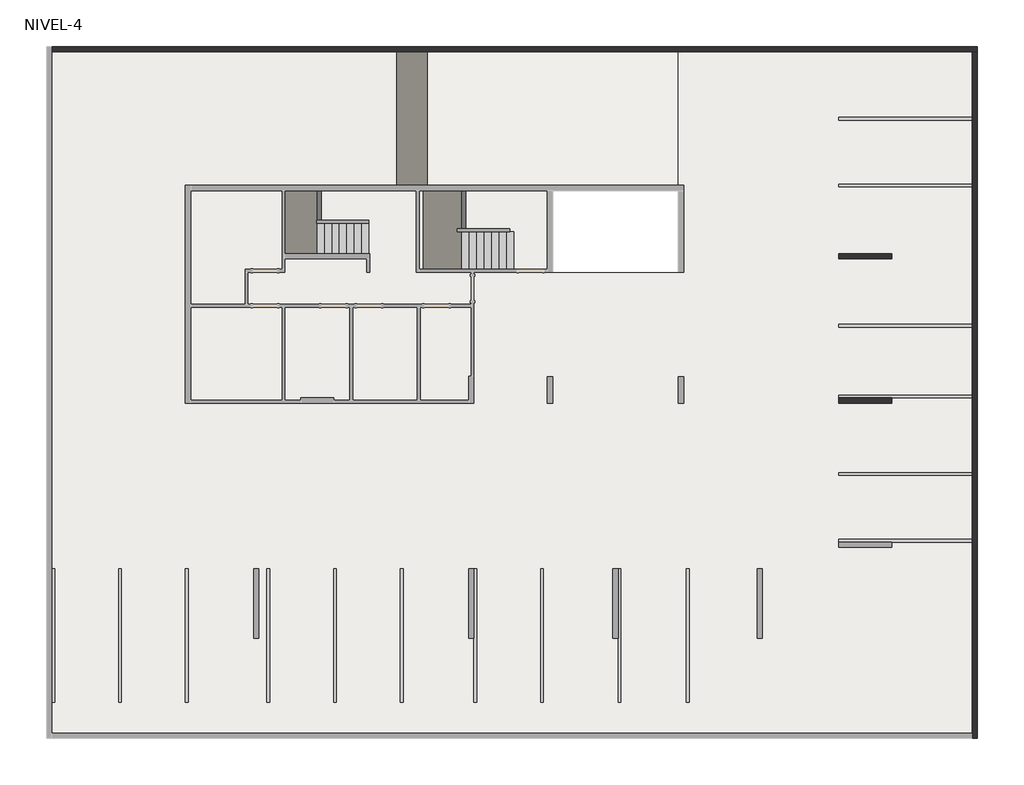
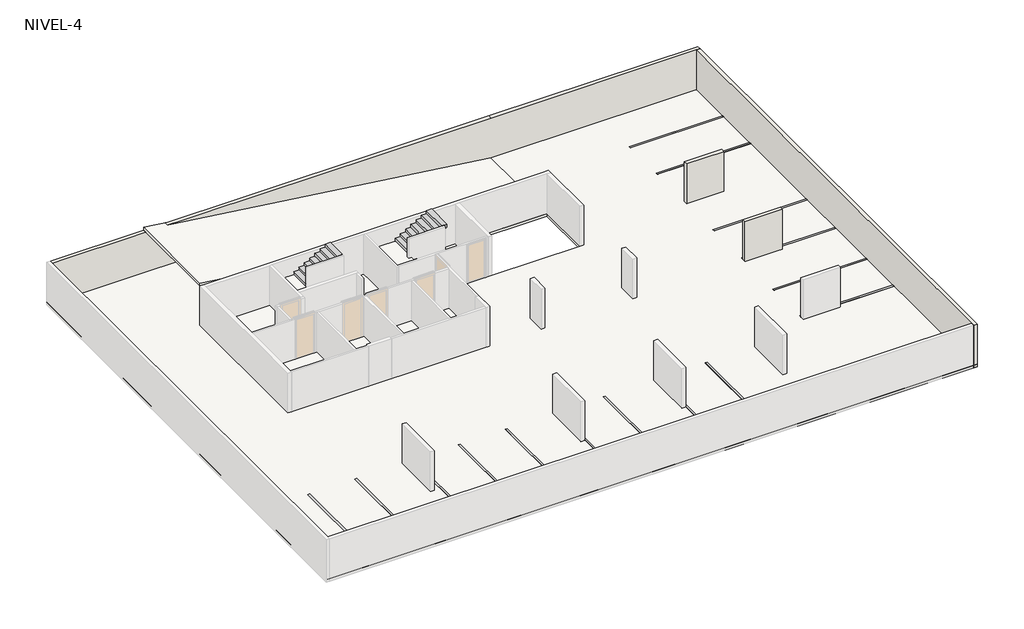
# One storey, part 2 of 2: 16 proxies, 4 slabs, 4 stair flights, 4 walls.
"""IFC4 building model written with IfcOpenShell, lengths in millimetres."""

from ifc_helpers import new_model, si_unit, frame, origin, place, context, project, spatial, polyline, outline, extrude, faceted_brep, transform, mapped, element, save
from components import m_plaza_de_aparcamiento_500x_240_cm_90_grados_ee1d180e, m_plaza_de_aparcamiento_500x_240_cm_90_grados_d35e9f12

model = new_model("IFC4")

# Units and contexts
model_context = context("Model", 3, world=origin())
ifc_project = project(units=[si_unit("LENGTHUNIT", "METRE", prefix="MILLI")], contexts=[model_context])

# Site, building, storey
site = spatial("IfcSite", under=ifc_project)
building = spatial("IfcBuilding", under=site)
storey = spatial("IfcBuildingStorey", under=building, Name="NIVEL-4", Elevation=-11700.0)

# Proxies
placement = place(None, origin())
m_plaza_de_aparcamiento_500x_240_cm_90_grados_shape = m_plaza_de_aparcamiento_500x_240_cm_90_grados_ee1d180e(model_context)
element("IfcBuildingElementProxy", 1, Name="M_Plaza de aparcamiento : 500x 240 cm - 90 grados", ObjectType="M_Plaza de aparcamiento : 500x 240 cm - 90 grados", at=placement, inside=storey, context=model_context, shape_type="MappedRepresentation", body=[
    mapped(m_plaza_de_aparcamiento_500x_240_cm_90_grados_shape, transform((-12432.7934748, -1166.0860759, -11700.0), x_axis=(1.0, 0.0, 0.0), y_axis=(0.0, 1.0, 0.0), z_axis=(0.0, 0.0, 1.0))),
])
element("IfcBuildingElementProxy", 2, Name="M_Plaza de aparcamiento : 500x 240 cm - 90 grados", ObjectType="M_Plaza de aparcamiento : 500x 240 cm - 90 grados", at=placement, inside=storey, context=model_context, shape_type="MappedRepresentation", body=[
    mapped(m_plaza_de_aparcamiento_500x_240_cm_90_grados_shape, transform((-15183.5934748, -1166.0860759, -11700.0), x_axis=(1.0, 0.0, 0.0), y_axis=(0.0, 1.0, 0.0), z_axis=(0.0, 0.0, 1.0))),
])
element("IfcBuildingElementProxy", 3, Name="M_Plaza de aparcamiento : 500x 240 cm - 90 grados", ObjectType="M_Plaza de aparcamiento : 500x 240 cm - 90 grados", at=placement, inside=storey, context=model_context, shape_type="MappedRepresentation", body=[
    mapped(m_plaza_de_aparcamiento_500x_240_cm_90_grados_shape, transform((-17683.5934748, -1166.0860759, -11700.0), x_axis=(1.0, 0.0, 0.0), y_axis=(0.0, 1.0, 0.0), z_axis=(0.0, 0.0, 1.0))),
])
element("IfcBuildingElementProxy", 4, Name="M_Plaza de aparcamiento : 500x 240 cm - 90 grados", ObjectType="M_Plaza de aparcamiento : 500x 240 cm - 90 grados", at=placement, inside=storey, context=model_context, shape_type="MappedRepresentation", body=[
    mapped(m_plaza_de_aparcamiento_500x_240_cm_90_grados_shape, transform((-20183.5934748, -1166.0860759, -11700.0), x_axis=(1.0, 0.0, 0.0), y_axis=(0.0, 1.0, 0.0), z_axis=(0.0, 0.0, 1.0))),
])
element("IfcBuildingElementProxy", 5, Name="M_Plaza de aparcamiento : 500x 240 cm - 90 grados", ObjectType="M_Plaza de aparcamiento : 500x 240 cm - 90 grados", at=placement, inside=storey, context=model_context, shape_type="MappedRepresentation", body=[
    mapped(m_plaza_de_aparcamiento_500x_240_cm_90_grados_shape, transform((-23233.5934748, -1166.0860759, -11700.0), x_axis=(1.0, 0.0, 0.0), y_axis=(0.0, 1.0, 0.0), z_axis=(0.0, 0.0, 1.0))),
])
element("IfcBuildingElementProxy", 6, Name="M_Plaza de aparcamiento : 500x 240 cm - 90 grados", ObjectType="M_Plaza de aparcamiento : 500x 240 cm - 90 grados", at=placement, inside=storey, context=model_context, shape_type="MappedRepresentation", body=[
    mapped(m_plaza_de_aparcamiento_500x_240_cm_90_grados_shape, transform((-25733.5934748, -1166.0860759, -11700.0), x_axis=(1.0, 0.0, 0.0), y_axis=(0.0, 1.0, 0.0), z_axis=(0.0, 0.0, 1.0))),
])
element("IfcBuildingElementProxy", 7, Name="M_Plaza de aparcamiento : 500x 240 cm - 90 grados", ObjectType="M_Plaza de aparcamiento : 500x 240 cm - 90 grados", at=placement, inside=storey, context=model_context, shape_type="MappedRepresentation", body=[
    mapped(m_plaza_de_aparcamiento_500x_240_cm_90_grados_shape, transform((-28233.5934748, -1166.0860759, -11700.0), x_axis=(1.0, 0.0, 0.0), y_axis=(0.0, 1.0, 0.0), z_axis=(0.0, 0.0, 1.0))),
])
element("IfcBuildingElementProxy", 8, Name="M_Plaza de aparcamiento : 500x 240 cm - 90 grados", ObjectType="M_Plaza de aparcamiento : 500x 240 cm - 90 grados", at=placement, inside=storey, context=model_context, shape_type="MappedRepresentation", body=[
    mapped(m_plaza_de_aparcamiento_500x_240_cm_90_grados_shape, transform((-9933.587274, -1166.0860759, -11700.0), x_axis=(1.0, 0.0, 0.0), y_axis=(0.0, 1.0, 0.0), z_axis=(0.0, 0.0, 1.0))),
])
element("IfcBuildingElementProxy", 9, Name="M_Plaza de aparcamiento : 500x 240 cm - 90 grados", ObjectType="M_Plaza de aparcamiento : 500x 240 cm - 90 grados", at=placement, inside=storey, context=model_context, shape_type="MappedRepresentation", body=[
    mapped(m_plaza_de_aparcamiento_500x_240_cm_90_grados_shape, transform((-7032.7934748, -1166.0860759, -11700.0), x_axis=(1.0, 0.0, 0.0), y_axis=(0.0, 1.0, 0.0), z_axis=(0.0, 0.0, 1.0))),
])
element("IfcBuildingElementProxy", 10, Name="M_Plaza de aparcamiento : 500x 240 cm - 90 grados", ObjectType="M_Plaza de aparcamiento : 500x 240 cm - 90 grados", at=placement, inside=storey, context=model_context, shape_type="MappedRepresentation", body=[
    mapped(m_plaza_de_aparcamiento_500x_240_cm_90_grados_shape, transform((-4481.9934748, -1166.0860759, -11700.0), x_axis=(1.0, 0.0, 0.0), y_axis=(0.0, 1.0, 0.0), z_axis=(0.0, 0.0, 1.0))),
])
m_plaza_de_aparcamiento_500x_240_cm_90_grados_2_shape = m_plaza_de_aparcamiento_500x_240_cm_90_grados_d35e9f12(model_context)
element("IfcBuildingElementProxy", 11, Name="M_Plaza de aparcamiento : 500x 240 cm - 90 grados", ObjectType="M_Plaza de aparcamiento : 500x 240 cm - 90 grados", at=placement, inside=storey, context=model_context, shape_type="MappedRepresentation", body=[
    mapped(m_plaza_de_aparcamiento_500x_240_cm_90_grados_2_shape, transform((6166.4065252, 13184.7139241, -11700.0), x_axis=(0.0, 1.0, 0.0), y_axis=(-1.0, 0.0, 0.0), z_axis=(0.0, 0.0, 1.0))),
])
element("IfcBuildingElementProxy", 12, Name="M_Plaza de aparcamiento : 500x 240 cm - 90 grados", ObjectType="M_Plaza de aparcamiento : 500x 240 cm - 90 grados", at=placement, inside=storey, context=model_context, shape_type="MappedRepresentation", body=[
    mapped(m_plaza_de_aparcamiento_500x_240_cm_90_grados_2_shape, transform((6166.4065252, 15684.7139241, -11700.0), x_axis=(0.0, 1.0, 0.0), y_axis=(-1.0, 0.0, 0.0), z_axis=(0.0, 0.0, 1.0))),
])
element("IfcBuildingElementProxy", 13, Name="M_Plaza de aparcamiento : 500x 240 cm - 90 grados", ObjectType="M_Plaza de aparcamiento : 500x 240 cm - 90 grados", at=placement, inside=storey, context=model_context, shape_type="MappedRepresentation", body=[
    mapped(m_plaza_de_aparcamiento_500x_240_cm_90_grados_2_shape, transform((6166.4065252, 7933.9139241, -11700.0), x_axis=(0.0, 1.0, 0.0), y_axis=(-1.0, 0.0, 0.0), z_axis=(0.0, 0.0, 1.0))),
])
element("IfcBuildingElementProxy", 14, Name="M_Plaza de aparcamiento : 500x 240 cm - 90 grados", ObjectType="M_Plaza de aparcamiento : 500x 240 cm - 90 grados", at=placement, inside=storey, context=model_context, shape_type="MappedRepresentation", body=[
    mapped(m_plaza_de_aparcamiento_500x_240_cm_90_grados_2_shape, transform((6166.4065252, 5284.7139241, -11700.0), x_axis=(0.0, 1.0, 0.0), y_axis=(-1.0, 0.0, 0.0), z_axis=(0.0, 0.0, 1.0))),
])
element("IfcBuildingElementProxy", 15, Name="M_Plaza de aparcamiento : 500x 240 cm - 90 grados", ObjectType="M_Plaza de aparcamiento : 500x 240 cm - 90 grados", at=placement, inside=storey, context=model_context, shape_type="MappedRepresentation", body=[
    mapped(m_plaza_de_aparcamiento_500x_240_cm_90_grados_2_shape, transform((6166.4065252, 2384.7139241, -11700.0), x_axis=(0.0, 1.0, 0.0), y_axis=(-1.0, 0.0, 0.0), z_axis=(0.0, 0.0, 1.0))),
])
element("IfcBuildingElementProxy", 16, Name="M_Plaza de aparcamiento : 500x 240 cm - 90 grados", ObjectType="M_Plaza de aparcamiento : 500x 240 cm - 90 grados", at=placement, inside=storey, context=model_context, shape_type="MappedRepresentation", body=[
    mapped(m_plaza_de_aparcamiento_500x_240_cm_90_grados_2_shape, transform((6166.4065252, -115.2860759, -11700.0), x_axis=(0.0, 1.0, 0.0), y_axis=(-1.0, 0.0, 0.0), z_axis=(0.0, 0.0, 1.0))),
])

# Slabs
element("IfcSlab", 17, ObjectType="150 mm Thickness", at=placement, inside=storey, context=model_context, shape_type="Brep", body=[
    faceted_brep([(-18375.8934748, 10633.9139241, -10429.3333333), (-18375.8934748, 11766.6139241, -10429.3333333), (-18375.8934748, 11876.6139241, -10429.3333333), (-18375.8934748, 12984.7139241, -10429.3333333), (-19558.5934748, 12984.7139241, -10429.3333333), (-19558.5934748, 10633.9139241, -10429.3333333), (-18696.0159045, 10633.9139241, -10429.3333333), (-18375.8934748, 10633.9139241, -10763.7848285), (-18375.8934748, 10633.9139241, -10590.6666667), (-19558.5934748, 10633.9139241, -10579.3333333), (-18696.0159045, 10633.9139241, -10579.3333333), (-18375.8934748, 11766.6139241, -10579.3333333), (-18375.8934748, 11876.6139241, -10579.3333333), (-18375.8934748, 12984.7139241, -10579.3333333), (-19558.5934748, 12984.7139241, -10579.3333333), (-18696.0159045, 11766.6139241, -10579.3333333), (-18375.8934748, 11766.6139241, -10763.7848285), (-18375.8934748, 11766.6139241, -10590.6666667)], [[[0, 1, 2, 3, 4, 5, 6]], [[7, 8, 0, 6, 5, 9, 10]], [[2, 1, 11, 12]], [[3, 2, 12, 13]], [[4, 3, 13, 14]], [[10, 15, 16, 7]], [[15, 11, 17, 16]], [[15, 10, 9, 14, 13, 12, 11]], [[1, 0, 8, 7, 16, 17, 11]], [[5, 4, 14, 9]]]),
])
element("IfcSlab", 18, ObjectType="150 mm Thickness", at=placement, inside=storey, context=model_context, shape_type="Brep", body=[
    faceted_brep([(-12958.9934748, 10043.9139241, -10429.3333333), (-12958.9934748, 11459.3139241, -10429.3333333), (-12958.9934748, 11569.3139241, -10429.3333333), (-12958.9934748, 12984.7139241, -10429.3333333), (-14374.3934748, 12984.7139241, -10429.3333333), (-14374.3934748, 10043.9139241, -10429.3333333), (-13279.1159045, 10043.9139241, -10429.3333333), (-12958.9934748, 10043.9139241, -10763.7848285), (-12958.9934748, 10043.9139241, -10590.6666667), (-14374.3934748, 10043.9139241, -10579.3333333), (-13279.1159045, 10043.9139241, -10579.3333333), (-12958.9934748, 11459.3139241, -10579.3333333), (-12958.9934748, 11569.3139241, -10579.3333333), (-12958.9934748, 12984.7139241, -10579.3333333), (-14374.3934748, 12984.7139241, -10579.3333333), (-13279.1159045, 11459.3139241, -10579.3333333), (-12958.9934748, 11459.3139241, -10763.7848285), (-12958.9934748, 11459.3139241, -10590.6666667)], [[[0, 1, 2, 3, 4, 5, 6]], [[7, 8, 0, 6, 5, 9, 10]], [[2, 1, 11, 12]], [[3, 2, 12, 13]], [[4, 3, 13, 14]], [[15, 10, 9, 14, 13, 12, 11]], [[10, 15, 16, 7]], [[15, 11, 17, 16]], [[5, 4, 14, 9]], [[1, 0, 8, 7, 16, 17, 11]]]),
])
element("IfcSlab", 19, ObjectType="LOSA-150mm", at=placement, inside=storey, context=model_context, shape_type="SweptSolid", body=[
    extrude(outline(polyline([(-28484.3934748, 18384.7139241), (6366.4065252, 18384.7139241), (6366.4065252, -7516.0860759), (-28484.3934748, -7516.0860759), (-28484.3934748, 18384.7139241)]), holes=[polyline([(-4833.5934748, 12984.7139241), (-9533.5934748, 12984.7139241), (-9533.5934748, 9933.9139241), (-4833.5934748, 9933.9139241), (-4833.5934748, 12984.7139241)])]), frame((0.0, 0.0, -11870.0), z_axis=(0.0, 0.0, 1.0), x_axis=(1.0, 0.0, 0.0)), (0.0, 0.0, 1.0), 150.0),
])
element("IfcSlab", 20, ObjectType="LOSA-150mm", at=placement, inside=storey, context=model_context, shape_type="SweptSolid", body=[
    extrude(outline(polyline([(-9471.2636531, -23284.3934748), (-11871.2636531, -4833.5934748), (-11720.0, -4833.5934748), (-9320.0, -23284.3934748), (-9471.2636531, -23284.3934748)])), frame((0.0, 13184.7139241, 0.0), z_axis=(0.0, 1.0, 0.0), x_axis=(0.0, 0.0, 1.0)), (0.0, 0.0, 1.0), 5200.0),
])

# Stair flights
element("IfcStairFlight", 21, ObjectType="Monolithic Run", at=placement, inside=storey, context=model_context, shape_type="Brep", body=[
    faceted_brep([(-18375.8934748, 12984.7139241, -10268.0), (-18375.8934748, 11876.6139241, -10268.0), (-18335.7710452, 11876.6139241, -10268.0), (-18095.8934748, 11876.6139241, -10268.0), (-18095.8934748, 12984.7139241, -10268.0), (-18335.7710452, 12984.7139241, -10268.0), (-18095.8934748, 12984.7139241, -10441.1181618), (-18335.7710452, 12984.7139241, -10579.3333333), (-18375.8934748, 12984.7139241, -10579.3333333), (-18375.8934748, 12984.7139241, -10429.3333333), (-18375.8934748, 11876.6139241, -10579.3333333), (-18335.7710452, 11876.6139241, -10579.3333333), (-18095.8934748, 11876.6139241, -10441.1181618), (-17815.8934748, 12984.7139241, -10106.6666667), (-18095.8934748, 12984.7139241, -10106.6666667), (-18095.8934748, 11876.6139241, -10106.6666667), (-17815.8934748, 11876.6139241, -10106.6666667), (-17815.8934748, 12984.7139241, -10279.7848285), (-17815.8934748, 11876.6139241, -10279.7848285), (-17535.8934748, 12984.7139241, -9945.3333333), (-17815.8934748, 12984.7139241, -9945.3333333), (-17815.8934748, 11876.6139241, -9945.3333333), (-17535.8934748, 11876.6139241, -9945.3333333), (-17535.8934748, 12984.7139241, -10118.4514952), (-17535.8934748, 11876.6139241, -10118.4514952), (-17255.8934748, 12984.7139241, -9784.0), (-17535.8934748, 12984.7139241, -9784.0), (-17535.8934748, 11876.6139241, -9784.0), (-17255.8934748, 11876.6139241, -9784.0), (-17255.8934748, 12984.7139241, -9957.1181618), (-17255.8934748, 11876.6139241, -9957.1181618), (-16975.8934748, 12984.7139241, -9622.6666667), (-17255.8934748, 12984.7139241, -9622.6666667), (-17255.8934748, 11876.6139241, -9622.6666667), (-16975.8934748, 11876.6139241, -9622.6666667), (-16975.8934748, 12984.7139241, -9795.7848285), (-16975.8934748, 11876.6139241, -9795.7848285), (-16695.8934748, 12984.7139241, -9461.3333333), (-16975.8934748, 12984.7139241, -9461.3333333), (-16975.8934748, 11876.6139241, -9461.3333333), (-16695.8934748, 11876.6139241, -9461.3333333), (-16695.8934748, 12984.7139241, -9634.4514952), (-16695.8934748, 11876.6139241, -9634.4514952), (-16415.8934748, 12984.7139241, -9473.1181618), (-16415.8934748, 11876.6139241, -9473.1181618), (-16415.8934748, 12984.7139241, -9300.0), (-16695.8934748, 12984.7139241, -9300.0), (-16695.8934748, 11876.6139241, -9300.0), (-16415.8934748, 11876.6139241, -9300.0)], [[[0, 1, 2, 3, 4, 5]], [[4, 6, 7, 8, 9, 0, 5]], [[1, 0, 9, 8, 10]], [[1, 10, 11, 12, 3, 2]], [[13, 14, 15, 16]], [[14, 13, 17, 6, 4]], [[15, 14, 4, 3]], [[16, 15, 3, 12, 18]], [[19, 20, 21, 22]], [[20, 19, 23, 17, 13]], [[21, 20, 13, 16]], [[22, 21, 16, 18, 24]], [[25, 26, 27, 28]], [[26, 25, 29, 23, 19]], [[27, 26, 19, 22]], [[28, 27, 22, 24, 30]], [[31, 32, 33, 34]], [[32, 31, 35, 29, 25]], [[33, 32, 25, 28]], [[34, 33, 28, 30, 36]], [[37, 38, 39, 40]], [[38, 37, 41, 35, 31]], [[39, 38, 31, 34]], [[40, 39, 34, 36, 42]], [[7, 11, 10, 8]], [[11, 7, 6, 17, 23, 29, 35, 41, 43, 44, 42, 36, 30, 24, 18, 12]], [[45, 46, 47, 48]], [[46, 45, 43, 41, 37]], [[47, 46, 37, 40]], [[48, 47, 40, 42, 44]], [[45, 48, 44, 43]]]),
])
element("IfcStairFlight", 22, ObjectType="Monolithic Run", at=placement, inside=storey, context=model_context, shape_type="Brep", body=[
    faceted_brep([(-16695.8934748, 10633.9139241, -11558.6666667), (-16415.8934748, 10633.9139241, -11558.6666667), (-16415.8934748, 11766.6139241, -11558.6666667), (-16695.8934748, 11766.6139241, -11558.6666667), (-16695.8934748, 10633.9139241, -11720.0), (-16415.8934748, 10633.9139241, -11720.0), (-16415.8934748, 11766.6139241, -11720.0), (-16695.8934748, 11766.6139241, -11720.0), (-16975.8934748, 10633.9139241, -11397.3333333), (-16695.8934748, 10633.9139241, -11397.3333333), (-16695.8934748, 11766.6139241, -11397.3333333), (-16975.8934748, 11766.6139241, -11397.3333333), (-16975.8934748, 10633.9139241, -11570.4514952), (-16716.346483, 10633.9139241, -11720.0), (-16716.346483, 11766.6139241, -11720.0), (-16975.8934748, 11766.6139241, -11570.4514952), (-17255.8934748, 10633.9139241, -11236.0), (-16975.8934748, 10633.9139241, -11236.0), (-16975.8934748, 11766.6139241, -11236.0), (-17255.8934748, 11766.6139241, -11236.0), (-17255.8934748, 10633.9139241, -11409.1181618), (-17255.8934748, 11766.6139241, -11409.1181618), (-17535.8934748, 10633.9139241, -11074.6666667), (-17255.8934748, 10633.9139241, -11074.6666667), (-17255.8934748, 11766.6139241, -11074.6666667), (-17535.8934748, 11766.6139241, -11074.6666667), (-17535.8934748, 10633.9139241, -11247.7848285), (-17535.8934748, 11766.6139241, -11247.7848285), (-17815.8934748, 10633.9139241, -10913.3333333), (-17535.8934748, 10633.9139241, -10913.3333333), (-17535.8934748, 11766.6139241, -10913.3333333), (-17815.8934748, 11766.6139241, -10913.3333333), (-17815.8934748, 10633.9139241, -11086.4514952), (-17815.8934748, 11766.6139241, -11086.4514952), (-18095.8934748, 10633.9139241, -10752.0), (-17815.8934748, 10633.9139241, -10752.0), (-17815.8934748, 11766.6139241, -10752.0), (-18095.8934748, 11766.6139241, -10752.0), (-18095.8934748, 10633.9139241, -10925.1181618), (-18095.8934748, 11766.6139241, -10925.1181618), (-18375.8934748, 10633.9139241, -10763.7848285), (-18375.8934748, 11766.6139241, -10763.7848285), (-18375.8934748, 10633.9139241, -10590.6666667), (-18095.8934748, 10633.9139241, -10590.6666667), (-18095.8934748, 11766.6139241, -10590.6666667), (-18375.8934748, 11766.6139241, -10590.6666667)], [[[0, 1, 2, 3]], [[1, 0, 4, 5]], [[2, 1, 5, 6]], [[3, 2, 6, 7]], [[8, 9, 10, 11]], [[4, 0, 9, 8, 12, 13]], [[0, 3, 10, 9]], [[3, 7, 14, 15, 11, 10]], [[16, 17, 18, 19]], [[17, 16, 20, 12, 8]], [[8, 11, 18, 17]], [[19, 18, 11, 15, 21]], [[22, 23, 24, 25]], [[23, 22, 26, 20, 16]], [[16, 19, 24, 23]], [[25, 24, 19, 21, 27]], [[28, 29, 30, 31]], [[29, 28, 32, 26, 22]], [[22, 25, 30, 29]], [[31, 30, 25, 27, 33]], [[34, 35, 36, 37]], [[35, 34, 38, 32, 28]], [[28, 31, 36, 35]], [[37, 36, 31, 33, 39]], [[5, 4, 13, 14, 7, 6]], [[14, 13, 12, 20, 26, 32, 38, 40, 41, 39, 33, 27, 21, 15]], [[42, 43, 44, 45]], [[43, 42, 40, 38, 34]], [[34, 37, 44, 43]], [[45, 44, 37, 39, 41]], [[42, 45, 41, 40]]]),
])
element("IfcStairFlight", 23, ObjectType="Monolithic Run", at=placement, inside=storey, context=model_context, shape_type="Brep", body=[
    faceted_brep([(-12958.9934748, 12984.7139241, -10268.0), (-12958.9934748, 11569.3139241, -10268.0), (-12918.8710452, 11569.3139241, -10268.0), (-12678.9934748, 11569.3139241, -10268.0), (-12678.9934748, 12984.7139241, -10268.0), (-12918.8710452, 12984.7139241, -10268.0), (-12678.9934748, 12984.7139241, -10441.1181618), (-12918.8710452, 12984.7139241, -10579.3333333), (-12958.9934748, 12984.7139241, -10579.3333333), (-12958.9934748, 12984.7139241, -10429.3333333), (-12958.9934748, 11569.3139241, -10579.3333333), (-12918.8710452, 11569.3139241, -10579.3333333), (-12678.9934748, 11569.3139241, -10441.1181618), (-12398.9934748, 12984.7139241, -10106.6666667), (-12678.9934748, 12984.7139241, -10106.6666667), (-12678.9934748, 11569.3139241, -10106.6666667), (-12398.9934748, 11569.3139241, -10106.6666667), (-12398.9934748, 12984.7139241, -10279.7848285), (-12398.9934748, 11569.3139241, -10279.7848285), (-12118.9934748, 12984.7139241, -9945.3333333), (-12398.9934748, 12984.7139241, -9945.3333333), (-12398.9934748, 11569.3139241, -9945.3333333), (-12118.9934748, 11569.3139241, -9945.3333333), (-12118.9934748, 12984.7139241, -10118.4514952), (-12118.9934748, 11569.3139241, -10118.4514952), (-11838.9934748, 12984.7139241, -9784.0), (-12118.9934748, 12984.7139241, -9784.0), (-12118.9934748, 11569.3139241, -9784.0), (-11838.9934748, 11569.3139241, -9784.0), (-11838.9934748, 12984.7139241, -9957.1181618), (-11838.9934748, 11569.3139241, -9957.1181618), (-11558.9934748, 12984.7139241, -9622.6666667), (-11838.9934748, 12984.7139241, -9622.6666667), (-11838.9934748, 11569.3139241, -9622.6666667), (-11558.9934748, 11569.3139241, -9622.6666667), (-11558.9934748, 12984.7139241, -9795.7848285), (-11558.9934748, 11569.3139241, -9795.7848285), (-11278.9934748, 12984.7139241, -9461.3333333), (-11558.9934748, 12984.7139241, -9461.3333333), (-11558.9934748, 11569.3139241, -9461.3333333), (-11278.9934748, 11569.3139241, -9461.3333333), (-11278.9934748, 12984.7139241, -9634.4514952), (-11278.9934748, 11569.3139241, -9634.4514952), (-10998.9934748, 12984.7139241, -9473.1181618), (-10998.9934748, 11569.3139241, -9473.1181618), (-10998.9934748, 12984.7139241, -9300.0), (-11278.9934748, 12984.7139241, -9300.0), (-11278.9934748, 11569.3139241, -9300.0), (-10998.9934748, 11569.3139241, -9300.0)], [[[0, 1, 2, 3, 4, 5]], [[4, 6, 7, 8, 9, 0, 5]], [[1, 0, 9, 8, 10]], [[1, 10, 11, 12, 3, 2]], [[13, 14, 15, 16]], [[14, 13, 17, 6, 4]], [[15, 14, 4, 3]], [[16, 15, 3, 12, 18]], [[19, 20, 21, 22]], [[20, 19, 23, 17, 13]], [[21, 20, 13, 16]], [[22, 21, 16, 18, 24]], [[25, 26, 27, 28]], [[26, 25, 29, 23, 19]], [[27, 26, 19, 22]], [[28, 27, 22, 24, 30]], [[31, 32, 33, 34]], [[32, 31, 35, 29, 25]], [[33, 32, 25, 28]], [[34, 33, 28, 30, 36]], [[37, 38, 39, 40]], [[38, 37, 41, 35, 31]], [[39, 38, 31, 34]], [[40, 39, 34, 36, 42]], [[7, 11, 10, 8]], [[11, 7, 6, 17, 23, 29, 35, 41, 43, 44, 42, 36, 30, 24, 18, 12]], [[45, 46, 47, 48]], [[46, 45, 43, 41, 37]], [[47, 46, 37, 40]], [[48, 47, 40, 42, 44]], [[45, 48, 44, 43]]]),
])
element("IfcStairFlight", 24, ObjectType="Monolithic Run", at=placement, inside=storey, context=model_context, shape_type="Brep", body=[
    faceted_brep([(-11278.9934748, 10043.9139241, -11558.6666667), (-10998.9934748, 10043.9139241, -11558.6666667), (-10998.9934748, 11459.3139241, -11558.6666667), (-11278.9934748, 11459.3139241, -11558.6666667), (-11278.9934748, 10043.9139241, -11720.0), (-10998.9934748, 10043.9139241, -11720.0), (-10998.9934748, 11459.3139241, -11720.0), (-11278.9934748, 11459.3139241, -11720.0), (-11558.9934748, 10043.9139241, -11397.3333333), (-11278.9934748, 10043.9139241, -11397.3333333), (-11278.9934748, 11459.3139241, -11397.3333333), (-11558.9934748, 11459.3139241, -11397.3333333), (-11558.9934748, 10043.9139241, -11570.4514952), (-11299.446483, 10043.9139241, -11720.0), (-11299.446483, 11459.3139241, -11720.0), (-11558.9934748, 11459.3139241, -11570.4514952), (-11838.9934748, 10043.9139241, -11236.0), (-11558.9934748, 10043.9139241, -11236.0), (-11558.9934748, 11459.3139241, -11236.0), (-11838.9934748, 11459.3139241, -11236.0), (-11838.9934748, 10043.9139241, -11409.1181618), (-11838.9934748, 11459.3139241, -11409.1181618), (-12118.9934748, 10043.9139241, -11074.6666667), (-11838.9934748, 10043.9139241, -11074.6666667), (-11838.9934748, 11459.3139241, -11074.6666667), (-12118.9934748, 11459.3139241, -11074.6666667), (-12118.9934748, 10043.9139241, -11247.7848285), (-12118.9934748, 11459.3139241, -11247.7848285), (-12398.9934748, 10043.9139241, -10913.3333333), (-12118.9934748, 10043.9139241, -10913.3333333), (-12118.9934748, 11459.3139241, -10913.3333333), (-12398.9934748, 11459.3139241, -10913.3333333), (-12398.9934748, 10043.9139241, -11086.4514952), (-12398.9934748, 11459.3139241, -11086.4514952), (-12678.9934748, 10043.9139241, -10752.0), (-12398.9934748, 10043.9139241, -10752.0), (-12398.9934748, 11459.3139241, -10752.0), (-12678.9934748, 11459.3139241, -10752.0), (-12678.9934748, 10043.9139241, -10925.1181618), (-12678.9934748, 11459.3139241, -10925.1181618), (-12958.9934748, 10043.9139241, -10763.7848285), (-12958.9934748, 11459.3139241, -10763.7848285), (-12958.9934748, 10043.9139241, -10590.6666667), (-12678.9934748, 10043.9139241, -10590.6666667), (-12678.9934748, 11459.3139241, -10590.6666667), (-12958.9934748, 11459.3139241, -10590.6666667)], [[[0, 1, 2, 3]], [[1, 0, 4, 5]], [[2, 1, 5, 6]], [[3, 2, 6, 7]], [[8, 9, 10, 11]], [[4, 0, 9, 8, 12, 13]], [[0, 3, 10, 9]], [[3, 7, 14, 15, 11, 10]], [[16, 17, 18, 19]], [[17, 16, 20, 12, 8]], [[8, 11, 18, 17]], [[19, 18, 11, 15, 21]], [[22, 23, 24, 25]], [[23, 22, 26, 20, 16]], [[16, 19, 24, 23]], [[25, 24, 19, 21, 27]], [[28, 29, 30, 31]], [[29, 28, 32, 26, 22]], [[22, 25, 30, 29]], [[31, 30, 25, 27, 33]], [[34, 35, 36, 37]], [[35, 34, 38, 32, 28]], [[28, 31, 36, 35]], [[37, 36, 31, 33, 39]], [[5, 4, 13, 14, 7, 6]], [[14, 13, 12, 20, 26, 32, 38, 40, 41, 39, 33, 27, 21, 15]], [[42, 43, 44, 45]], [[43, 42, 40, 38, 34]], [[34, 37, 44, 43]], [[45, 44, 37, 39, 41]], [[42, 45, 41, 40]]]),
])

# Walls
element("IfcWall", 25, ObjectType="HA-200mm", at=placement, inside=storey, context=model_context, shape_type="Brep", body=[
    faceted_brep([(-28284.3934748, 18184.7139241, -11870.0), (6166.4065252, 18184.7139241, -11870.0), (6366.4065252, 18184.7139241, -11870.0), (6366.4065252, 18184.7139241, -9470.0), (6166.4065252, 18184.7139241, -9470.0), (-4833.5934748, 18184.7139241, -9470.0), (-23284.3934748, 18184.7139241, -9470.0), (-28284.3934748, 18184.7139241, -9470.0), (-28284.3934748, 18384.7139241, -11870.0), (-28284.3934748, 18384.7139241, -9470.0), (-23284.3934748, 18384.7139241, -9470.0), (-4833.5934748, 18384.7139241, -9470.0), (6366.4065252, 18384.7139241, -9470.0), (6366.4065252, 18384.7139241, -11870.0)], [[[0, 1, 2, 3, 4, 5, 6, 7]], [[8, 9, 10, 11, 12, 13]], [[2, 1, 0, 8, 13]], [[0, 7, 9, 8]], [[3, 2, 13, 12]], [[6, 5, 11, 10]], [[7, 6, 10, 9]], [[5, 4, 3, 12, 11]]]),
])
element("IfcWall", 26, ObjectType="HA-200mm", at=placement, inside=storey, context=model_context, shape_type="Brep", body=[
    faceted_brep([(6166.4065252, 18184.7139241, -11870.0), (6166.4065252, -7316.0860759, -11870.0), (6166.4065252, -7516.0860759, -11870.0), (6166.4065252, -7516.0860759, -9470.0), (6166.4065252, -7316.0860759, -9470.0), (6166.4065252, 18184.7139241, -9470.0), (6366.4065252, 18184.7139241, -11870.0), (6366.4065252, 18184.7139241, -9470.0), (6366.4065252, -7516.0860759, -9470.0), (6366.4065252, -7516.0860759, -11870.0)], [[[0, 1, 2, 3, 4, 5]], [[6, 7, 8, 9]], [[2, 1, 0, 6, 9]], [[0, 5, 7, 6]], [[3, 2, 9, 8]], [[5, 4, 3, 8, 7]]]),
])
element("IfcWall", 27, ObjectType="HA-200mm", at=placement, inside=storey, context=model_context, shape_type="SweptSolid", body=[
    extrude(outline(polyline([(3166.4065252, 5033.9139241), (1166.4065252, 5033.9139241), (1166.4065252, 5233.9139241), (3166.4065252, 5233.9139241), (3166.4065252, 5033.9139241)])), frame((0.0, 0.0, -11720.0), z_axis=(0.0, 0.0, 1.0), x_axis=(1.0, 0.0, 0.0)), (0.0, 0.0, 1.0), 2250.0),
])
element("IfcWall", 28, ObjectType="HA-200mm", at=placement, inside=storey, context=model_context, shape_type="SweptSolid", body=[
    extrude(outline(polyline([(3166.4065252, 10433.9139241), (1166.4065252, 10433.9139241), (1166.4065252, 10633.9139241), (3166.4065252, 10633.9139241), (3166.4065252, 10433.9139241)])), frame((0.0, 0.0, -11720.0), z_axis=(0.0, 0.0, 1.0), x_axis=(1.0, 0.0, 0.0)), (0.0, 0.0, 1.0), 2250.0),
])

save(model, "model.ifc")
